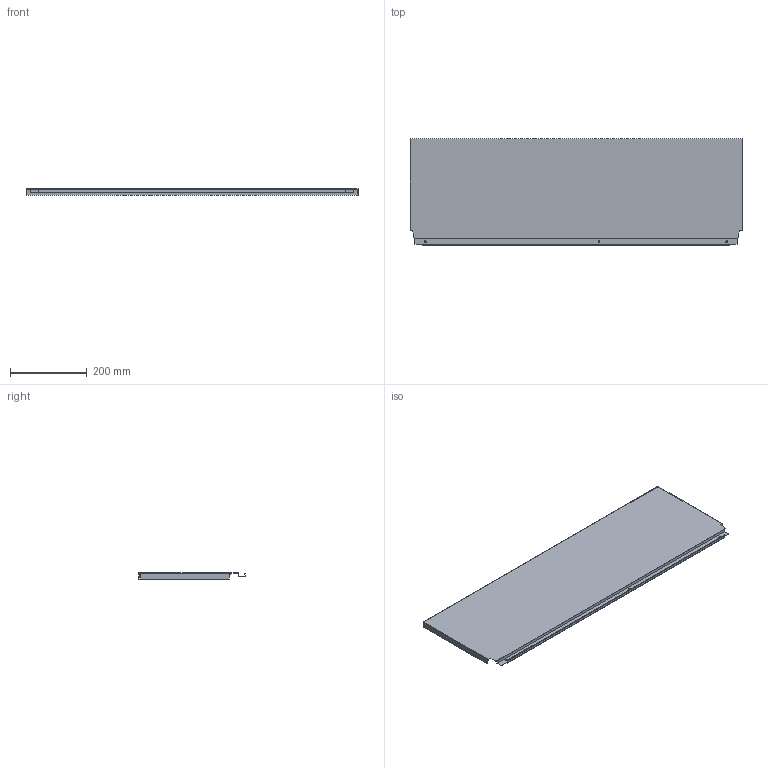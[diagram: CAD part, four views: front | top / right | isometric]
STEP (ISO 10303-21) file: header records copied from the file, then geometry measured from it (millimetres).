
FILE_DESCRIPTION (( 'STEP AP214' ), '1' );
FILE_NAME ('_DWD_XP Stahlrückwand_H278_KAB950_S16.step', '2010-07-08T13:03:50', ( 'grass' ), ( '' ), 'SwSTEP 2.0', 'SolidWorks 2010', '' );
FILE_SCHEMA (( 'AUTOMOTIVE_DESIGN' ));
Length unit declared in the file: millimetre
Products named in the file (1): _DWD_XP Stahlrückwand_H278_KAB950_S16
Bounding box: 867 x 278.57 x 16 mm (x, y, z)
Volume: 240383 mm3; surface area: 548398.4 mm2
Topology: 1 solids, 1 shells, 46 faces, 132 edges, 88 vertices
Faces by surface type: plane 40, cylinder 6
Entity records: 1534 total; most frequent: CARTESIAN_POINT 267, ORIENTED_EDGE 264, DIRECTION 238, EDGE_CURVE 132, LINE 120, VECTOR 120, VERTEX_POINT 88, AXIS2_PLACEMENT_3D 59
